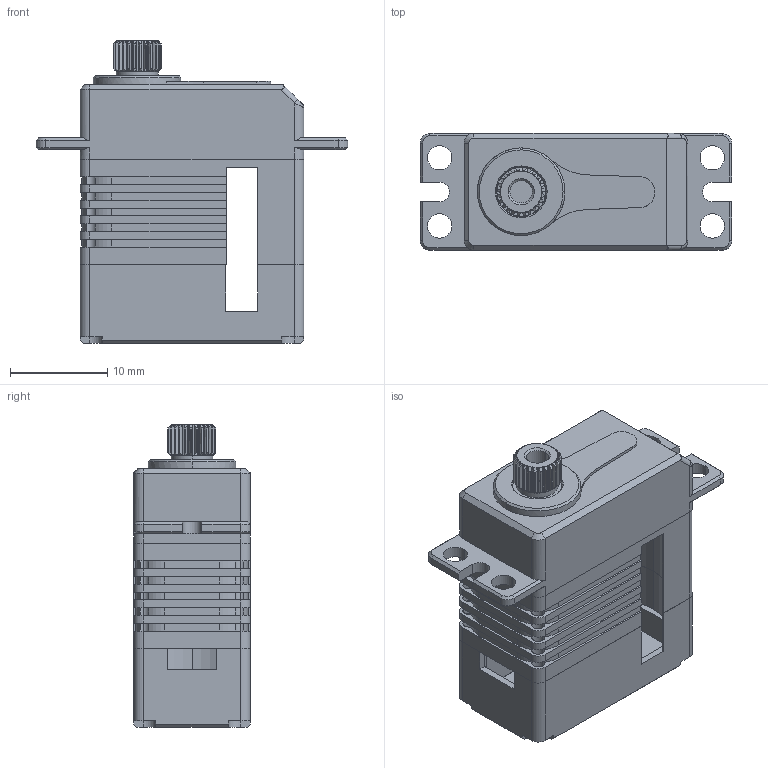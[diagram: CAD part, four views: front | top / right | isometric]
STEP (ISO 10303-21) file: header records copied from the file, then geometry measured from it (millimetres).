
FILE_DESCRIPTION (( 'STEP AP214' ), '1' );
FILE_NAME ('X12-508_DM_20200520.STEP', '2023-04-13T01:34:11', ( '' ), ( '' ), 'SwSTEP 2.0', 'SolidWorks 2016', '' );
FILE_SCHEMA (( 'AUTOMOTIVE_DESIGN' ));
Length unit declared in the file: millimetre
Products named in the file (1): X12-508_DM_20200520
Bounding box: 32 x 12 x 31.1 mm (x, y, z)
Surface area: 3965.6 mm2 (no closed solid volume)
Topology: 0 solids, 4 shells, 470 faces, 1602 edges, 1072 vertices
Faces by surface type: cylinder 214, plane 146, cone 58, bspline 52
Entity records: 24172 total; most frequent: CARTESIAN_POINT 5321, DIRECTION 2876, ORIENTED_EDGE 2793, EDGE_CURVE 1602, AXIS2_PLACEMENT_3D 1082, VERTEX_POINT 1072, VECTOR 712, LINE 712
